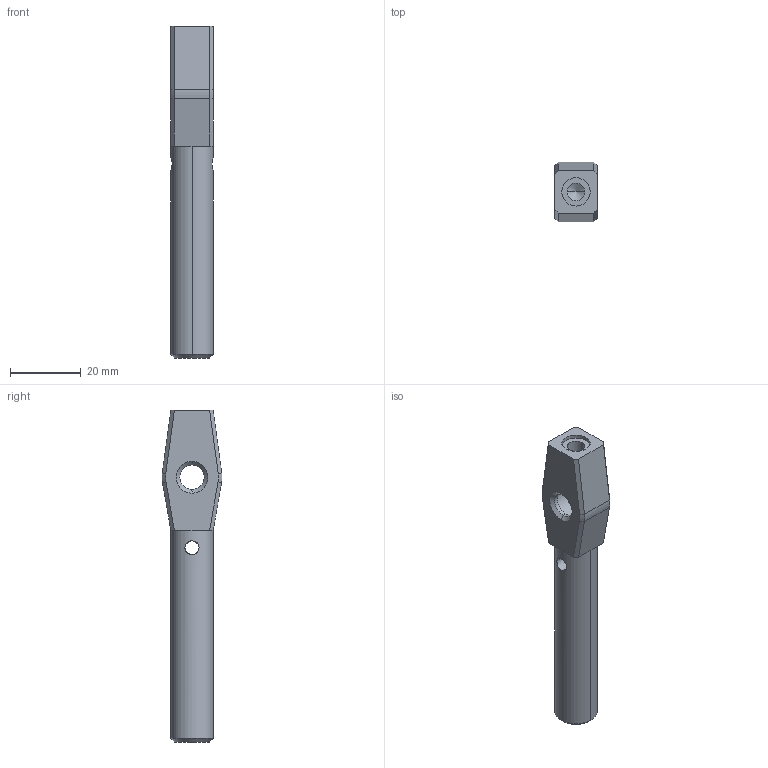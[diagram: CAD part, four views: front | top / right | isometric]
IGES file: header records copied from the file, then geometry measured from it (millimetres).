
Global section: file name: No Iges File Name specified; native system: AutoDesk Inventor R12.0; preprocessor: AutoDesk Inventor Iges Exporter R12.0; author: No Author specified; organization: No Organization specified; date: 20100803.105101; units: millimetre
Bounding box: 12 x 16.99 x 94.05 mm (x, y, z)
Volume: 11482.7 mm3; surface area: 5023.7 mm2
Topology: 1 solids, 3 shells, 72 faces, 169 edges, 103 vertices
Faces by surface type: plane 34, bspline 16, revolution 10, cone 6, cylinder 6
